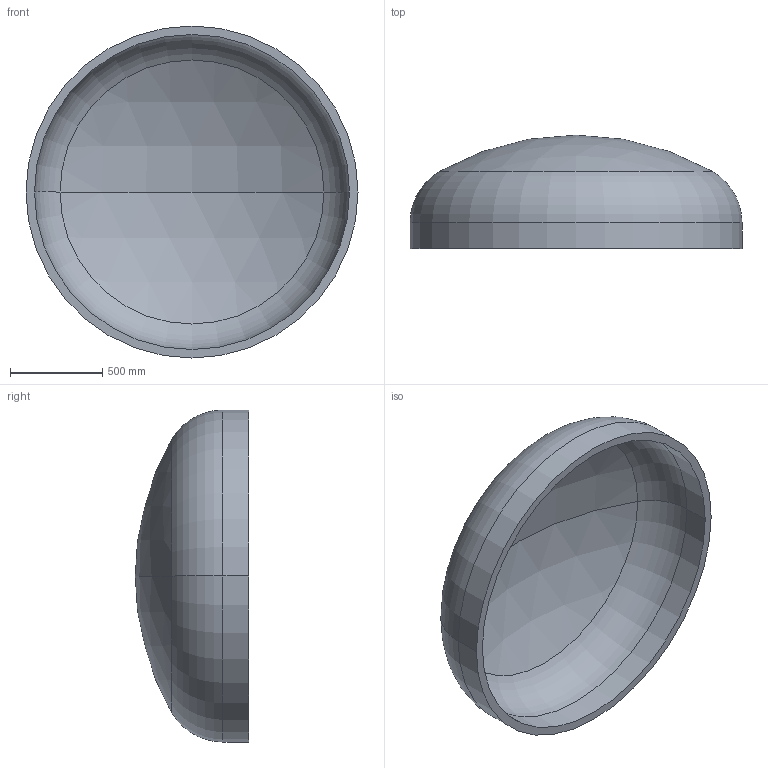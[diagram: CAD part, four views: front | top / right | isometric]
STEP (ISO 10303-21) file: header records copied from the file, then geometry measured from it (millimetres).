
FILE_DESCRIPTION (( 'STEP AP203' ), '1' );
FILE_NAME ('DIN 28013 Korbbogenform_-_Boden DIN 28013 - 1800 x 140 - I - s=46.step', '2016-07-01T12:32:16', ( '' ), ( '' ), 'SwSTEP 2.0', 'SolidWorks 2013', '' );
FILE_SCHEMA (( 'CONFIG_CONTROL_DESIGN' ));
Length unit declared in the file: millimetre
Products named in the file (1): DIN 28013 Korbbogenform_-_Boden DIN 28013 - 1800 x 140 - I - s=46
Bounding box: 1800 x 615.07 x 1800 mm (x, y, z)
Volume: 192016771.4 mm3; surface area: 8606460.8 mm2
Topology: 1 solids, 1 shells, 13 faces, 24 edges, 14 vertices
Faces by surface type: torus 4, cylinder 4, sphere 4, plane 1
Entity records: 407 total; most frequent: DIRECTION 72, CARTESIAN_POINT 52, ORIENTED_EDGE 48, AXIS2_PLACEMENT_3D 34, EDGE_CURVE 24, CIRCLE 20, EDGE_LOOP 14, VERTEX_POINT 14
